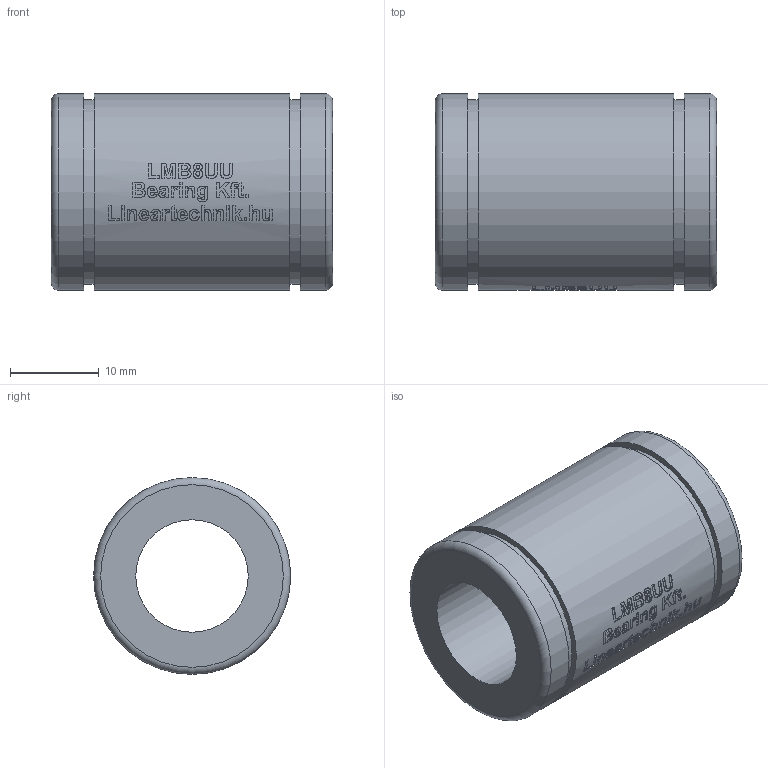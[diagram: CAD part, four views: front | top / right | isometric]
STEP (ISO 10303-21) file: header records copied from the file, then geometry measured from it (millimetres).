
FILE_DESCRIPTION(/* description */ (''),/* implementation_level */ '2;1');
FILE_NAME(/* name */ 'LMB8UU',/* time_stamp */ '2019-05-16T15:31:46+02:00',/* author */ ('VĂ©gh MĂˇtĂ©'),/* organization */ ('Bearing Kft'),/* preprocessor_version */ 'ST-DEVELOPER v16.7',/* originating_system */ 'DEX',/* authorisation */ $);
FILE_SCHEMA (('AUTOMOTIVE_DESIGN {1 0 10303 214 3 1 1}'));
Length unit declared in the file: millimetre
Products named in the file (1): LMB8UU
Bounding box: 31.75 x 22.23 x 22.23 mm (x, y, z)
Volume: 8165.5 mm3; surface area: 4154.6 mm2
Topology: 1 solids, 1 shells, 306 faces, 756 edges, 504 vertices
Faces by surface type: plane 154, bspline 96, cylinder 54, torus 2
Full cylindrical faces by diameter (mm): 12.7 x1, 20.853 x2, 22.225 x3
Entity records: 15563 total; most frequent: CARTESIAN_POINT 8830, ORIENTED_EDGE 1486, DIRECTION 1113, EDGE_CURVE 743, VERTEX_POINT 502, LINE 403, VECTOR 403, EDGE_LOOP 371
